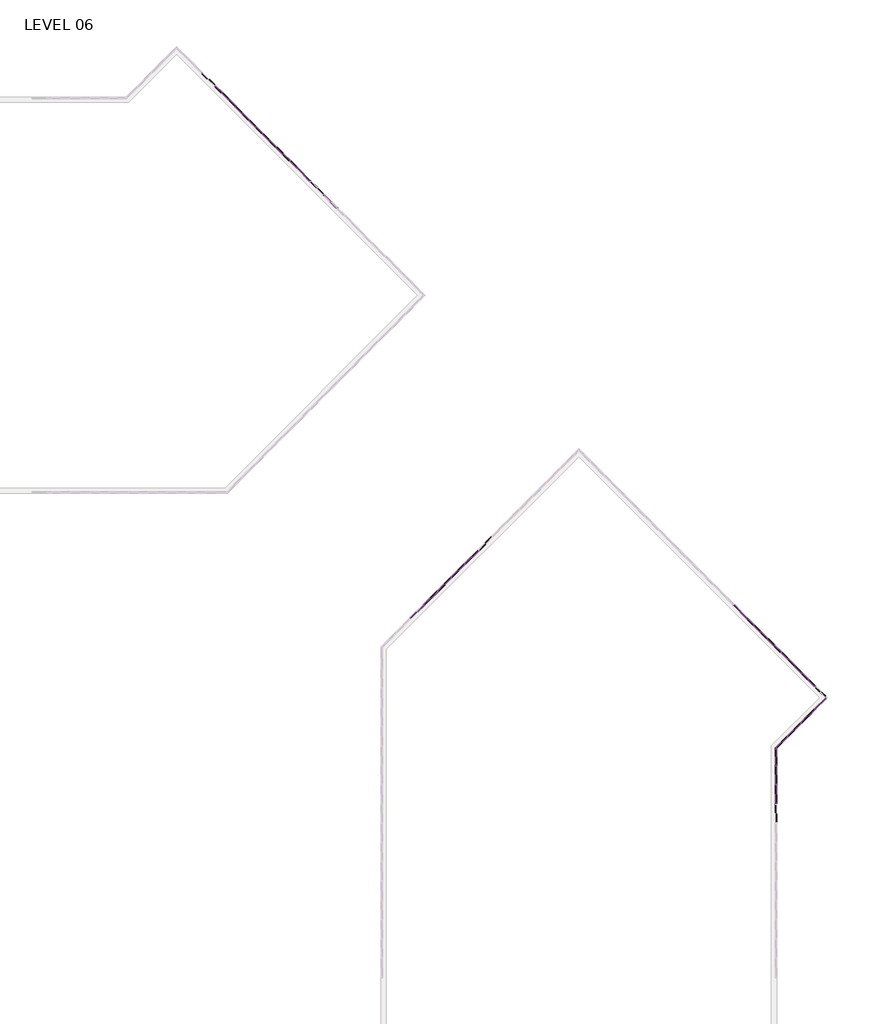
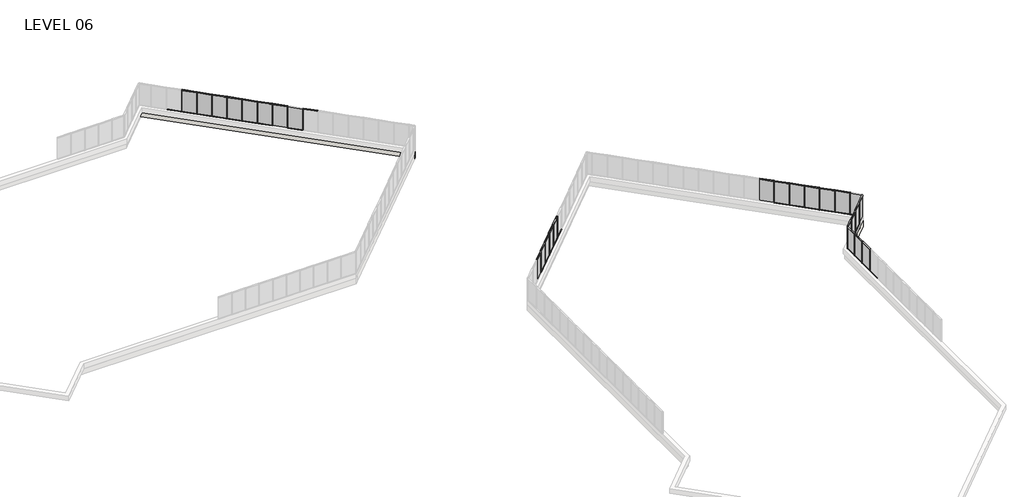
# One storey, part 16 of 17: 80 members, 27 plates, 2 walls.
"""IFC4 building model written with IfcOpenShell, lengths in millimetres."""

from ifc_helpers import new_model, si_unit, origin, place, context, project, spatial, faceted_brep, transform, mapped, element, save
from components import member_5247f267, member_e44af9ab, member_c23f844a, member_ed9c17d6, member_800970d4, member_45eb7f2e, member_53409b32, member_43bac76b, member_0b71a88d, plate_67294edd, plate_50b9cd61, plate_048e4634, plate_dca6a18a, plate_aaac5d3d, plate_9c66726c, plate_e0fd5134, plate_15429445, plate_0d1907f3, plate_903242d9

model = new_model("IFC4")

# Units and contexts
model_context = context("Model", 3, world=origin())
ifc_project = project(units=[si_unit("LENGTHUNIT", "METRE", prefix="MILLI")], contexts=[model_context])

# Site, building, storey
site = spatial("IfcSite", under=ifc_project)
building = spatial("IfcBuilding", under=site)
storey = spatial("IfcBuildingStorey", under=building, Name="LEVEL 06", Elevation=19596.1)

# Members
placement = place(None, origin())
member_shape = member_5247f267(model_context)
element("IfcMember", 1, ObjectType="Rectangular Mullion : 2\" x 4.5\" rectangular", at=placement, inside=storey, context=model_context, shape_type="MappedRepresentation", body=[
    mapped(member_shape, transform((56684.0325556, 112485.575885, 19596.1), x_axis=(0.0, 0.0, -1.0), y_axis=(0.7071067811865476, 0.7071067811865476, 0.0), z_axis=(0.7071067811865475, -0.7071067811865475, 0.0))),
])
element("IfcMember", 2, ObjectType="Rectangular Mullion : 2\" x 4.5\" rectangular", at=placement, inside=storey, context=model_context, shape_type="MappedRepresentation", body=[
    mapped(member_shape, transform((50242.2689164, 118927.3395242, 19596.1), x_axis=(0.0, 0.0, -1.0), y_axis=(0.7071067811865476, 0.7071067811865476, 0.0), z_axis=(0.7071067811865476, -0.7071067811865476, 0.0))),
])
element("IfcMember", 3, ObjectType="Rectangular Mullion : 2\" x 4.5\" rectangular", at=placement, inside=storey, context=model_context, shape_type="MappedRepresentation", body=[
    mapped(member_shape, transform((49164.6381819, 120004.9702587, 19596.1), x_axis=(0.0, 0.0, -1.0), y_axis=(0.7071067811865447, 0.7071067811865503, 0.0), z_axis=(0.7071067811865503, -0.7071067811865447, 0.0))),
])
element("IfcMember", 4, ObjectType="Rectangular Mullion : 2\" x 4.5\" rectangular", at=placement, inside=storey, context=model_context, shape_type="MappedRepresentation", body=[
    mapped(member_shape, transform((48087.0074473, 121082.6009932, 19596.1), x_axis=(0.0, 0.0, -1.0), y_axis=(0.7071067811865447, 0.7071067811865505, 0.0), z_axis=(0.7071067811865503, -0.7071067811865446, 0.0))),
])
element("IfcMember", 5, ObjectType="Rectangular Mullion : 2\" x 4.5\" rectangular", at=placement, inside=storey, context=model_context, shape_type="MappedRepresentation", body=[
    mapped(member_shape, transform((56719.9535801, 112449.6548605, 22186.9), x_axis=(0.0, 0.0, 1.0), y_axis=(0.7071067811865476, 0.7071067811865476, 0.0), z_axis=(-0.7071067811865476, 0.7071067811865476, 0.0))),
])
element("IfcMember", 6, ObjectType="Rectangular Mullion : 2\" x 4.5\" rectangular", at=placement, inside=storey, context=model_context, shape_type="MappedRepresentation", body=[
    mapped(member_shape, transform((49200.5592064, 119969.0492342, 22186.9), x_axis=(0.0, 0.0, 1.0), y_axis=(0.7071067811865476, 0.7071067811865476, 0.0), z_axis=(-0.7071067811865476, 0.7071067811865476, 0.0))),
])
element("IfcMember", 7, ObjectType="Rectangular Mullion : 2\" x 4.5\" rectangular", at=placement, inside=storey, context=model_context, shape_type="MappedRepresentation", body=[
    mapped(member_shape, transform((48122.9284718, 121046.6799687, 22186.9), x_axis=(0.0, 0.0, 1.0), y_axis=(0.7071067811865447, 0.7071067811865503, 0.0), z_axis=(-0.7071067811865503, 0.7071067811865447, 0.0))),
])
member_2_shape = member_e44af9ab(model_context)
element("IfcMember", 8, ObjectType="Rectangular Mullion : 2\" x 4.5\" rectangular", at=placement, inside=storey, context=model_context, shape_type="MappedRepresentation", body=[
    mapped(member_2_shape, transform((56701.9930678, 112467.6153727, 19596.1), x_axis=(-0.7071067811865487, 0.7071067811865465, 0.0), y_axis=(0.7071067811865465, 0.7071067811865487, 0.0), z_axis=(0.0, 0.0, -1.0))),
])
element("IfcMember", 9, ObjectType="Rectangular Mullion : 2\" x 4.5\" rectangular", at=placement, inside=storey, context=model_context, shape_type="MappedRepresentation", body=[
    mapped(member_2_shape, transform((55624.3980678, 113545.2103727, 19596.1), x_axis=(-0.7071067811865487, 0.7071067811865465, 0.0), y_axis=(0.7071067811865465, 0.7071067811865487, 0.0), z_axis=(0.0, 0.0, -1.0))),
])
element("IfcMember", 10, ObjectType="Rectangular Mullion : 2\" x 4.5\" rectangular", at=placement, inside=storey, context=model_context, shape_type="MappedRepresentation", body=[
    mapped(member_2_shape, transform((53475.159658, 115694.4487825, 19596.1), x_axis=(-0.7071067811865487, 0.7071067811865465, 0.0), y_axis=(0.7071067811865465, 0.7071067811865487, 0.0), z_axis=(0.0, 0.0, -1.0))),
])
element("IfcMember", 11, ObjectType="Rectangular Mullion : 2\" x 4.5\" rectangular", at=placement, inside=storey, context=model_context, shape_type="MappedRepresentation", body=[
    mapped(member_2_shape, transform((52403.5162482, 116766.0921923, 19596.1), x_axis=(-0.7071067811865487, 0.7071067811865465, 0.0), y_axis=(0.7071067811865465, 0.7071067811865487, 0.0), z_axis=(0.0, 0.0, -1.0))),
])
element("IfcMember", 12, ObjectType="Rectangular Mullion : 2\" x 4.5\" rectangular", at=placement, inside=storey, context=model_context, shape_type="MappedRepresentation", body=[
    mapped(member_2_shape, transform((51331.8728384, 117837.7356021, 19596.1), x_axis=(-0.7071067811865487, 0.7071067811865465, 0.0), y_axis=(0.7071067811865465, 0.7071067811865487, 0.0), z_axis=(0.0, 0.0, -1.0))),
])
element("IfcMember", 13, ObjectType="Rectangular Mullion : 2\" x 4.5\" rectangular", at=placement, inside=storey, context=model_context, shape_type="MappedRepresentation", body=[
    mapped(member_2_shape, transform((50260.2294286, 118909.3790119, 19596.1), x_axis=(-0.7071067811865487, 0.7071067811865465, 0.0), y_axis=(0.7071067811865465, 0.7071067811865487, 0.0), z_axis=(0.0, 0.0, -1.0))),
])
element("IfcMember", 14, ObjectType="Rectangular Mullion : 2\" x 4.5\" rectangular", at=placement, inside=storey, context=model_context, shape_type="MappedRepresentation", body=[
    mapped(member_2_shape, transform((54549.7788629, 114619.8295776, 19596.1), x_axis=(-0.7071067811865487, 0.7071067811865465, 0.0), y_axis=(0.7071067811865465, 0.7071067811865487, 0.0), z_axis=(0.0, 0.0, -1.0))),
])
element("IfcMember", 15, ObjectType="Rectangular Mullion : 2\" x 4.5\" rectangular", at=placement, inside=storey, context=model_context, shape_type="MappedRepresentation", body=[
    mapped(member_2_shape, transform((49182.5986941, 119987.0097464, 19596.1), x_axis=(-0.7071067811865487, 0.7071067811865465, 0.0), y_axis=(0.7071067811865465, 0.7071067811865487, 0.0), z_axis=(0.0, 0.0, -1.0))),
])
element("IfcMember", 16, ObjectType="Rectangular Mullion : 2\" x 4.5\" rectangular", at=placement, inside=storey, context=model_context, shape_type="MappedRepresentation", body=[
    mapped(member_2_shape, transform((48104.9679596, 121064.640481, 19596.1), x_axis=(-0.7071067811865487, 0.7071067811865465, 0.0), y_axis=(0.7071067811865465, 0.7071067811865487, 0.0), z_axis=(0.0, 0.0, -1.0))),
])
member_3_shape = member_c23f844a(model_context)
element("IfcMember", 17, ObjectType="Rectangular Mullion : 2\" x 4.5\" rectangular", at=placement, inside=storey, context=model_context, shape_type="MappedRepresentation", body=[
    mapped(member_3_shape, transform((52421.4767605, 116748.1316801, 22186.9), x_axis=(0.0, 0.0, 1.0), y_axis=(0.7071067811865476, 0.7071067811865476, 0.0), z_axis=(-0.7071067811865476, 0.7071067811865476, 0.0))),
])
element("IfcMember", 18, ObjectType="Rectangular Mullion : 2\" x 4.5\" rectangular", at=placement, inside=storey, context=model_context, shape_type="MappedRepresentation", body=[
    mapped(member_3_shape, transform((51349.8333507, 117819.7750899, 22186.9), x_axis=(0.0, 0.0, 1.0), y_axis=(0.7071067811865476, 0.7071067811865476, 0.0), z_axis=(-0.7071067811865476, 0.7071067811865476, 0.0))),
])
element("IfcMember", 19, ObjectType="Rectangular Mullion : 2\" x 4.5\" rectangular", at=placement, inside=storey, context=model_context, shape_type="MappedRepresentation", body=[
    mapped(member_3_shape, transform((50278.1899409, 118891.4184997, 22186.9), x_axis=(0.0, 0.0, 1.0), y_axis=(0.7071067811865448, 0.7071067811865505, 0.0), z_axis=(-0.7071067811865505, 0.7071067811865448, 0.0))),
])
element("IfcMember", 20, ObjectType="Rectangular Mullion : 2\" x 4.5\" rectangular", at=placement, inside=storey, context=model_context, shape_type="MappedRepresentation", body=[
    mapped(member_3_shape, transform((53457.1991458, 115712.4092948, 19596.1), x_axis=(0.0, 0.0, -1.0), y_axis=(0.7071067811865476, 0.7071067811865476, 0.0), z_axis=(0.7071067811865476, -0.7071067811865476, 0.0))),
])
element("IfcMember", 21, ObjectType="Rectangular Mullion : 2\" x 4.5\" rectangular", at=placement, inside=storey, context=model_context, shape_type="MappedRepresentation", body=[
    mapped(member_3_shape, transform((52385.555736, 116784.0527046, 19596.1), x_axis=(0.0, 0.0, -1.0), y_axis=(0.7071067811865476, 0.7071067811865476, 0.0), z_axis=(0.7071067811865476, -0.7071067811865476, 0.0))),
])
element("IfcMember", 22, ObjectType="Rectangular Mullion : 2\" x 4.5\" rectangular", at=placement, inside=storey, context=model_context, shape_type="MappedRepresentation", body=[
    mapped(member_3_shape, transform((51313.9123262, 117855.6961144, 19596.1), x_axis=(0.0, 0.0, -1.0), y_axis=(0.7071067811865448, 0.7071067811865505, 0.0), z_axis=(0.7071067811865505, -0.7071067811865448, 0.0))),
])
member_4_shape = member_ed9c17d6(model_context)
element("IfcMember", 23, ObjectType="Rectangular Mullion : 2\" x 4.5\" rectangular", at=placement, inside=storey, context=model_context, shape_type="MappedRepresentation", body=[
    mapped(member_4_shape, transform((53493.1201703, 115676.4882703, 22186.9), x_axis=(0.0, 0.0, 1.0), y_axis=(0.7071067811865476, 0.7071067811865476, 0.0), z_axis=(-0.7071067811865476, 0.7071067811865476, 0.0))),
])
element("IfcMember", 24, ObjectType="Rectangular Mullion : 2\" x 4.5\" rectangular", at=placement, inside=storey, context=model_context, shape_type="MappedRepresentation", body=[
    mapped(member_4_shape, transform((54567.7393752, 114601.8690654, 22186.9), x_axis=(0.0, 0.0, 1.0), y_axis=(0.7071067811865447, 0.7071067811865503, 0.0), z_axis=(-0.7071067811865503, 0.7071067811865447, 0.0))),
])
element("IfcMember", 25, ObjectType="Rectangular Mullion : 2\" x 4.5\" rectangular", at=placement, inside=storey, context=model_context, shape_type="MappedRepresentation", body=[
    mapped(member_4_shape, transform((54531.8183507, 114637.7900899, 19596.1), x_axis=(0.0, 0.0, -1.0), y_axis=(0.7071067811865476, 0.7071067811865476, 0.0), z_axis=(0.7071067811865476, -0.7071067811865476, 0.0))),
])
element("IfcMember", 26, ObjectType="Rectangular Mullion : 2\" x 4.5\" rectangular", at=placement, inside=storey, context=model_context, shape_type="MappedRepresentation", body=[
    mapped(member_shape, transform((92435.9347164, 65925.3675885, 22186.9), x_axis=(0.0, 0.0, 1.0), y_axis=(-1.0, 0.0, 0.0), z_axis=(0.0, -1.0, 0.0))),
])
element("IfcMember", 27, ObjectType="Rectangular Mullion : 2\" x 4.5\" rectangular", at=placement, inside=storey, context=model_context, shape_type="MappedRepresentation", body=[
    mapped(member_shape, transform((92435.9347164, 64401.3675885, 22186.9), x_axis=(0.0, 0.0, 1.0), y_axis=(-1.0, 0.0, 0.0), z_axis=(0.0, -1.0, 0.0))),
])
element("IfcMember", 28, ObjectType="Rectangular Mullion : 2\" x 4.5\" rectangular", at=placement, inside=storey, context=model_context, shape_type="MappedRepresentation", body=[
    mapped(member_shape, transform((64595.6050033, 80065.494011, 22186.9), x_axis=(0.0, 0.0, 1.0), y_axis=(0.7071067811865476, -0.7071067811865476, 0.0), z_axis=(0.7071067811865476, 0.7071067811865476, 0.0))),
])
element("IfcMember", 29, ObjectType="Rectangular Mullion : 2\" x 4.5\" rectangular", at=placement, inside=storey, context=model_context, shape_type="MappedRepresentation", body=[
    mapped(member_shape, transform((65673.2357378, 81143.1247456, 22186.9), x_axis=(0.0, 0.0, 1.0), y_axis=(0.7071067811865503, -0.7071067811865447, 0.0), z_axis=(0.7071067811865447, 0.7071067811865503, 0.0))),
])
element("IfcMember", 30, ObjectType="Rectangular Mullion : 2\" x 4.5\" rectangular", at=placement, inside=storey, context=model_context, shape_type="MappedRepresentation", body=[
    mapped(member_shape, transform((67828.4824051, 83298.3714129, 22186.9), x_axis=(0.0, 0.0, 1.0), y_axis=(0.7071067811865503, -0.7071067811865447, 0.0), z_axis=(0.7071067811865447, 0.7071067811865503, 0.0))),
])
element("IfcMember", 31, ObjectType="Rectangular Mullion : 2\" x 4.5\" rectangular", at=placement, inside=storey, context=model_context, shape_type="MappedRepresentation", body=[
    mapped(member_shape, transform((68906.0983379, 84375.9873457, 22186.9), x_axis=(0.0, 0.0, 1.0), y_axis=(0.7071067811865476, -0.7071067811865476, 0.0), z_axis=(0.7071067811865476, 0.7071067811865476, 0.0))),
])
element("IfcMember", 32, ObjectType="Rectangular Mullion : 2\" x 4.5\" rectangular", at=placement, inside=storey, context=model_context, shape_type="MappedRepresentation", body=[
    mapped(member_shape, transform((66750.8590715, 82220.7480792, 22186.9), x_axis=(0.0, 0.0, 1.0), y_axis=(0.7071067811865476, -0.7071067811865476, 0.0), z_axis=(0.7071067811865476, 0.7071067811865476, 0.0))),
])
element("IfcMember", 33, ObjectType="Rectangular Mullion : 2\" x 4.5\" rectangular", at=placement, inside=storey, context=model_context, shape_type="MappedRepresentation", body=[
    mapped(member_shape, transform((92277.0316457, 76892.5767949, 22186.9), x_axis=(0.0, 0.0, 1.0), y_axis=(-0.7071067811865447, -0.7071067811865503, 0.0), z_axis=(0.7071067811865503, -0.7071067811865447, 0.0))),
])
element("IfcMember", 34, ObjectType="Rectangular Mullion : 2\" x 4.5\" rectangular", at=placement, inside=storey, context=model_context, shape_type="MappedRepresentation", body=[
    mapped(member_shape, transform((93354.6623802, 75814.9460603, 22186.9), x_axis=(0.0, 0.0, 1.0), y_axis=(-0.7071067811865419, -0.7071067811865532, 0.0), z_axis=(0.7071067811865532, -0.7071067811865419, 0.0))),
])
element("IfcMember", 35, ObjectType="Rectangular Mullion : 2\" x 4.5\" rectangular", at=placement, inside=storey, context=model_context, shape_type="MappedRepresentation", body=[
    mapped(member_shape, transform((94432.2931147, 74737.3153258, 22186.9), x_axis=(0.0, 0.0, 1.0), y_axis=(-0.7071067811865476, -0.7071067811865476, 0.0), z_axis=(0.7071067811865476, -0.7071067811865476, 0.0))),
])
element("IfcMember", 36, ObjectType="Rectangular Mullion : 2\" x 4.5\" rectangular", at=placement, inside=storey, context=model_context, shape_type="MappedRepresentation", body=[
    mapped(member_shape, transform((95509.9238493, 73659.6845913, 22186.9), x_axis=(0.0, 0.0, 1.0), y_axis=(-0.7071067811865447, -0.7071067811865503, 0.0), z_axis=(0.7071067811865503, -0.7071067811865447, 0.0))),
])
element("IfcMember", 37, ObjectType="Rectangular Mullion : 2\" x 4.5\" rectangular", at=placement, inside=storey, context=model_context, shape_type="MappedRepresentation", body=[
    mapped(member_shape, transform((94441.1847655, 70787.511502, 22186.9), x_axis=(0.0, 0.0, 1.0), y_axis=(-0.7071067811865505, 0.7071067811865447, 0.0), z_axis=(-0.7071067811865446, -0.7071067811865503, 0.0))),
])
element("IfcMember", 38, ObjectType="Rectangular Mullion : 2\" x 4.5\" rectangular", at=placement, inside=storey, context=model_context, shape_type="MappedRepresentation", body=[
    mapped(member_shape, transform((93363.554031, 69709.8807675, 22186.9), x_axis=(0.0, 0.0, 1.0), y_axis=(-0.7071067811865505, 0.7071067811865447, 0.0), z_axis=(-0.7071067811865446, -0.7071067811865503, 0.0))),
])
element("IfcMember", 39, ObjectType="Rectangular Mullion : 2\" x 4.5\" rectangular", at=placement, inside=storey, context=model_context, shape_type="MappedRepresentation", body=[
    mapped(member_shape, transform((92435.9347164, 67398.5675885, 19596.1), x_axis=(0.0, 0.0, -1.0), y_axis=(-1.0, 0.0, 0.0), z_axis=(0.0, 1.0, 0.0))),
])
element("IfcMember", 40, ObjectType="Rectangular Mullion : 2\" x 4.5\" rectangular", at=placement, inside=storey, context=model_context, shape_type="MappedRepresentation", body=[
    mapped(member_shape, transform((92435.9347164, 65874.5675885, 19596.1), x_axis=(0.0, 0.0, -1.0), y_axis=(-1.0, 0.0, 0.0), z_axis=(0.0, 1.0, 0.0))),
])
element("IfcMember", 41, ObjectType="Rectangular Mullion : 2\" x 4.5\" rectangular", at=placement, inside=storey, context=model_context, shape_type="MappedRepresentation", body=[
    mapped(member_shape, transform((92435.9347164, 64350.5675885, 19596.1), x_axis=(0.0, 0.0, -1.0), y_axis=(-1.0, 0.0, 0.0), z_axis=(0.0, 1.0, 0.0))),
])
element("IfcMember", 42, ObjectType="Rectangular Mullion : 2\" x 4.5\" rectangular", at=placement, inside=storey, context=model_context, shape_type="MappedRepresentation", body=[
    mapped(member_shape, transform((64631.5260278, 80101.4150355, 19596.1), x_axis=(0.0, 0.0, -1.0), y_axis=(0.7071067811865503, -0.7071067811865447, 0.0), z_axis=(-0.7071067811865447, -0.7071067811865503, 0.0))),
])
element("IfcMember", 43, ObjectType="Rectangular Mullion : 2\" x 4.5\" rectangular", at=placement, inside=storey, context=model_context, shape_type="MappedRepresentation", body=[
    mapped(member_shape, transform((65709.1567623, 81179.04577, 19596.1), x_axis=(0.0, 0.0, -1.0), y_axis=(0.7071067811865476, -0.7071067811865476, 0.0), z_axis=(-0.7071067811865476, -0.7071067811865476, 0.0))),
])
element("IfcMember", 44, ObjectType="Rectangular Mullion : 2\" x 4.5\" rectangular", at=placement, inside=storey, context=model_context, shape_type="MappedRepresentation", body=[
    mapped(member_shape, transform((67864.4034296, 83334.2924374, 19596.1), x_axis=(0.0, 0.0, -1.0), y_axis=(0.7071067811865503, -0.7071067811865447, 0.0), z_axis=(-0.7071067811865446, -0.7071067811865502, 0.0))),
])
element("IfcMember", 45, ObjectType="Rectangular Mullion : 2\" x 4.5\" rectangular", at=placement, inside=storey, context=model_context, shape_type="MappedRepresentation", body=[
    mapped(member_shape, transform((68942.0193624, 84411.9083702, 19596.1), x_axis=(0.0, 0.0, -1.0), y_axis=(0.7071067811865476, -0.7071067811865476, 0.0), z_axis=(-0.7071067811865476, -0.7071067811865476, 0.0))),
])
element("IfcMember", 46, ObjectType="Rectangular Mullion : 2\" x 4.5\" rectangular", at=placement, inside=storey, context=model_context, shape_type="MappedRepresentation", body=[
    mapped(member_shape, transform((66786.780096, 82256.6691037, 19596.1), x_axis=(0.0, 0.0, -1.0), y_axis=(0.7071067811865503, -0.7071067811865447, 0.0), z_axis=(-0.7071067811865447, -0.7071067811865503, 0.0))),
])
element("IfcMember", 47, ObjectType="Rectangular Mullion : 2\" x 4.5\" rectangular", at=placement, inside=storey, context=model_context, shape_type="MappedRepresentation", body=[
    mapped(member_shape, transform((91235.3219356, 77934.2865049, 19596.1), x_axis=(0.0, 0.0, -1.0), y_axis=(-0.7071067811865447, -0.7071067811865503, 0.0), z_axis=(-0.7071067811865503, 0.7071067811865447, 0.0))),
])
element("IfcMember", 48, ObjectType="Rectangular Mullion : 2\" x 4.5\" rectangular", at=placement, inside=storey, context=model_context, shape_type="MappedRepresentation", body=[
    mapped(member_shape, transform((92312.9526702, 76856.6557704, 19596.1), x_axis=(0.0, 0.0, -1.0), y_axis=(-0.7071067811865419, -0.7071067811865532, 0.0), z_axis=(-0.7071067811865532, 0.7071067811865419, 0.0))),
])
element("IfcMember", 49, ObjectType="Rectangular Mullion : 2\" x 4.5\" rectangular", at=placement, inside=storey, context=model_context, shape_type="MappedRepresentation", body=[
    mapped(member_shape, transform((93390.5834047, 75779.0250359, 19596.1), x_axis=(0.0, 0.0, -1.0), y_axis=(-0.7071067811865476, -0.7071067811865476, 0.0), z_axis=(-0.7071067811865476, 0.7071067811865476, 0.0))),
])
element("IfcMember", 50, ObjectType="Rectangular Mullion : 2\" x 4.5\" rectangular", at=placement, inside=storey, context=model_context, shape_type="MappedRepresentation", body=[
    mapped(member_shape, transform((94468.2141392, 74701.3943013, 19596.1), x_axis=(0.0, 0.0, -1.0), y_axis=(-0.7071067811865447, -0.7071067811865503, 0.0), z_axis=(-0.7071067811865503, 0.7071067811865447, 0.0))),
])
element("IfcMember", 51, ObjectType="Rectangular Mullion : 2\" x 4.5\" rectangular", at=placement, inside=storey, context=model_context, shape_type="MappedRepresentation", body=[
    mapped(member_shape, transform((94405.263741, 70751.5904775, 19596.1), x_axis=(0.0, 0.0, -1.0), y_axis=(-0.7071067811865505, 0.7071067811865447, 0.0), z_axis=(0.7071067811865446, 0.7071067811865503, 0.0))),
])
element("IfcMember", 52, ObjectType="Rectangular Mullion : 2\" x 4.5\" rectangular", at=placement, inside=storey, context=model_context, shape_type="MappedRepresentation", body=[
    mapped(member_shape, transform((95482.8944756, 71829.221212, 19596.1), x_axis=(0.0, 0.0, -1.0), y_axis=(-0.7071067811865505, 0.7071067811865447, 0.0), z_axis=(0.7071067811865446, 0.7071067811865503, 0.0))),
])
element("IfcMember", 53, ObjectType="Rectangular Mullion : 2\" x 4.5\" rectangular", at=placement, inside=storey, context=model_context, shape_type="MappedRepresentation", body=[
    mapped(member_2_shape, transform((92435.9347164, 67423.9675885, 19596.1), x_axis=(0.0, -1.0, 0.0), y_axis=(-1.0, 0.0, 0.0), z_axis=(0.0, 0.0, -1.0))),
])
element("IfcMember", 54, ObjectType="Rectangular Mullion : 2\" x 4.5\" rectangular", at=placement, inside=storey, context=model_context, shape_type="MappedRepresentation", body=[
    mapped(member_2_shape, transform((92435.9347164, 65899.9675885, 19596.1), x_axis=(0.0, -1.0, 0.0), y_axis=(-1.0, 0.0, 0.0), z_axis=(0.0, 0.0, -1.0))),
])
element("IfcMember", 55, ObjectType="Rectangular Mullion : 2\" x 4.5\" rectangular", at=placement, inside=storey, context=model_context, shape_type="MappedRepresentation", body=[
    mapped(member_2_shape, transform((92435.9347164, 64375.9675885, 19596.1), x_axis=(0.0, -1.0, 0.0), y_axis=(-1.0, 0.0, 0.0), z_axis=(0.0, 0.0, -1.0))),
])
element("IfcMember", 56, ObjectType="Rectangular Mullion : 2\" x 4.5\" rectangular", at=placement, inside=storey, context=model_context, shape_type="MappedRepresentation", body=[
    mapped(member_2_shape, transform((64613.5655155, 80083.4545233, 19596.1), x_axis=(0.7071067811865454, 0.7071067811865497, 0.0), y_axis=(0.7071067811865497, -0.7071067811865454, 0.0), z_axis=(0.0, 0.0, -1.0))),
])
element("IfcMember", 57, ObjectType="Rectangular Mullion : 2\" x 4.5\" rectangular", at=placement, inside=storey, context=model_context, shape_type="MappedRepresentation", body=[
    mapped(member_2_shape, transform((65691.1962501, 81161.0852578, 19596.1), x_axis=(0.7071067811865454, 0.7071067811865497, 0.0), y_axis=(0.7071067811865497, -0.7071067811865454, 0.0), z_axis=(0.0, 0.0, -1.0))),
])
element("IfcMember", 58, ObjectType="Rectangular Mullion : 2\" x 4.5\" rectangular", at=placement, inside=storey, context=model_context, shape_type="MappedRepresentation", body=[
    mapped(member_2_shape, transform((67846.4429174, 83316.3319251, 19596.1), x_axis=(0.7071067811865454, 0.7071067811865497, 0.0), y_axis=(0.7071067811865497, -0.7071067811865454, 0.0), z_axis=(0.0, 0.0, -1.0))),
])
element("IfcMember", 59, ObjectType="Rectangular Mullion : 2\" x 4.5\" rectangular", at=placement, inside=storey, context=model_context, shape_type="MappedRepresentation", body=[
    mapped(member_2_shape, transform((68924.0588502, 84393.9478579, 19596.1), x_axis=(0.7071067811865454, 0.7071067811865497, 0.0), y_axis=(0.7071067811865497, -0.7071067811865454, 0.0), z_axis=(0.0, 0.0, -1.0))),
])
element("IfcMember", 60, ObjectType="Rectangular Mullion : 2\" x 4.5\" rectangular", at=placement, inside=storey, context=model_context, shape_type="MappedRepresentation", body=[
    mapped(member_2_shape, transform((66768.8195837, 82238.7085915, 19596.1), x_axis=(0.7071067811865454, 0.7071067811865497, 0.0), y_axis=(0.7071067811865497, -0.7071067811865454, 0.0), z_axis=(0.0, 0.0, -1.0))),
])
element("IfcMember", 61, ObjectType="Rectangular Mullion : 2\" x 4.5\" rectangular", at=placement, inside=storey, context=model_context, shape_type="MappedRepresentation", body=[
    mapped(member_2_shape, transform((90145.7180136, 79023.890427, 19596.1), x_axis=(0.7071067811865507, -0.7071067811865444, 0.0), y_axis=(-0.7071067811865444, -0.7071067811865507, 0.0), z_axis=(0.0, 0.0, -1.0))),
])
element("IfcMember", 62, ObjectType="Rectangular Mullion : 2\" x 4.5\" rectangular", at=placement, inside=storey, context=model_context, shape_type="MappedRepresentation", body=[
    mapped(member_2_shape, transform((91217.3614234, 77952.2470172, 19596.1), x_axis=(0.7071067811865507, -0.7071067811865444, 0.0), y_axis=(-0.7071067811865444, -0.7071067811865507, 0.0), z_axis=(0.0, 0.0, -1.0))),
])
element("IfcMember", 63, ObjectType="Rectangular Mullion : 2\" x 4.5\" rectangular", at=placement, inside=storey, context=model_context, shape_type="MappedRepresentation", body=[
    mapped(member_2_shape, transform((92294.9921579, 76874.6162826, 19596.1), x_axis=(0.7071067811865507, -0.7071067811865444, 0.0), y_axis=(-0.7071067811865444, -0.7071067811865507, 0.0), z_axis=(0.0, 0.0, -1.0))),
])
element("IfcMember", 64, ObjectType="Rectangular Mullion : 2\" x 4.5\" rectangular", at=placement, inside=storey, context=model_context, shape_type="MappedRepresentation", body=[
    mapped(member_2_shape, transform((93372.6228924, 75796.9855481, 19596.1), x_axis=(0.7071067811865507, -0.7071067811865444, 0.0), y_axis=(-0.7071067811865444, -0.7071067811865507, 0.0), z_axis=(0.0, 0.0, -1.0))),
])
element("IfcMember", 65, ObjectType="Rectangular Mullion : 2\" x 4.5\" rectangular", at=placement, inside=storey, context=model_context, shape_type="MappedRepresentation", body=[
    mapped(member_2_shape, transform((94450.253627, 74719.3548136, 19596.1), x_axis=(0.7071067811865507, -0.7071067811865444, 0.0), y_axis=(-0.7071067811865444, -0.7071067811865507, 0.0), z_axis=(0.0, 0.0, -1.0))),
])
element("IfcMember", 66, ObjectType="Rectangular Mullion : 2\" x 4.5\" rectangular", at=placement, inside=storey, context=model_context, shape_type="MappedRepresentation", body=[
    mapped(member_2_shape, transform((95527.8843615, 73641.724079, 19596.1), x_axis=(0.7071067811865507, -0.7071067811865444, 0.0), y_axis=(-0.7071067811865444, -0.7071067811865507, 0.0), z_axis=(0.0, 0.0, -1.0))),
])
element("IfcMember", 67, ObjectType="Rectangular Mullion : 2\" x 4.5\" rectangular", at=placement, inside=storey, context=model_context, shape_type="MappedRepresentation", body=[
    mapped(member_2_shape, transform((94423.2242533, 70769.5509898, 19596.1), x_axis=(-0.7071067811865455, -0.7071067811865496, 0.0), y_axis=(-0.7071067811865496, 0.7071067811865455, 0.0), z_axis=(0.0, 0.0, -1.0))),
])
element("IfcMember", 68, ObjectType="Rectangular Mullion : 2\" x 4.5\" rectangular", at=placement, inside=storey, context=model_context, shape_type="MappedRepresentation", body=[
    mapped(member_2_shape, transform((93345.5935187, 69691.9202552, 19596.1), x_axis=(-0.7071067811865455, -0.7071067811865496, 0.0), y_axis=(-0.7071067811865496, 0.7071067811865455, 0.0), z_axis=(0.0, 0.0, -1.0))),
])
element("IfcMember", 69, ObjectType="Rectangular Mullion : 2\" x 4.5\" rectangular", at=placement, inside=storey, context=model_context, shape_type="MappedRepresentation", body=[
    mapped(member_2_shape, transform((95500.8549878, 71847.1817243, 19596.1), x_axis=(-0.7071067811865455, -0.7071067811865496, 0.0), y_axis=(-0.7071067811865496, 0.7071067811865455, 0.0), z_axis=(0.0, 0.0, -1.0))),
])
member_5_shape = member_800970d4(model_context)
element("IfcMember", 70, ObjectType="Rectangular Mullion : 2\" x 4.5\" rectangular", at=placement, inside=storey, context=model_context, shape_type="MappedRepresentation", body=[
    mapped(member_5_shape, transform((92435.9347164, 68782.2614529, 19596.1), x_axis=(-0.7071067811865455, -0.7071067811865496, 0.0), y_axis=(-0.7071067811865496, 0.7071067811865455, 0.0), z_axis=(0.0, 0.0, -1.0))),
])
element("IfcMember", 71, ObjectType="Rectangular Mullion : 2\" x 4.5\" rectangular", at=placement, inside=storey, context=model_context, shape_type="MappedRepresentation", body=[
    mapped(member_5_shape, transform((92435.9347164, 68782.2614529, 22186.9), x_axis=(0.0, 1.0, 0.0), y_axis=(-1.0, 0.0, 0.0), z_axis=(0.0, 0.0, 1.0))),
])
element("IfcMember", 72, ObjectType="Rectangular Mullion : 2\" x 4.5\" rectangular", at=placement, inside=storey, context=model_context, shape_type="MappedRepresentation", body=[
    mapped(member_3_shape, transform((90127.7575014, 79041.8509392, 22186.9), x_axis=(0.0, 0.0, 1.0), y_axis=(-0.7071067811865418, -0.7071067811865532, 0.0), z_axis=(0.7071067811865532, -0.7071067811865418, 0.0))),
])
element("IfcMember", 73, ObjectType="Rectangular Mullion : 2\" x 4.5\" rectangular", at=placement, inside=storey, context=model_context, shape_type="MappedRepresentation", body=[
    mapped(member_3_shape, transform((91199.4009111, 77970.2075294, 22186.9), x_axis=(0.0, 0.0, 1.0), y_axis=(-0.7071067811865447, -0.7071067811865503, 0.0), z_axis=(0.7071067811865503, -0.7071067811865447, 0.0))),
])
element("IfcMember", 74, ObjectType="Rectangular Mullion : 2\" x 4.5\" rectangular", at=placement, inside=storey, context=model_context, shape_type="MappedRepresentation", body=[
    mapped(member_3_shape, transform((90163.6785258, 79005.9299147, 19596.1), x_axis=(0.0, 0.0, -1.0), y_axis=(-0.7071067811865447, -0.7071067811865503, 0.0), z_axis=(-0.7071067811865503, 0.7071067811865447, 0.0))),
])
member_6_shape = member_45eb7f2e(model_context)
element("IfcMember", 75, ObjectType="Rectangular Mullion : 2\" x 4.5\" rectangular", at=placement, inside=storey, context=model_context, shape_type="MappedRepresentation", body=[
    mapped(member_6_shape, transform((92435.9347164, 67449.3675885, 22186.9), x_axis=(0.0, 0.0, 1.0), y_axis=(-1.0, 0.0, 0.0), z_axis=(0.0, -1.0, 0.0))),
])
element("IfcMember", 76, ObjectType="Rectangular Mullion : 2\" x 4.5\" rectangular", at=placement, inside=storey, context=model_context, shape_type="MappedRepresentation", body=[
    mapped(member_6_shape, transform((92435.9347164, 68731.4614529, 19596.1), x_axis=(0.0, 0.0, -1.0), y_axis=(-1.0, 0.0, 0.0), z_axis=(0.0, 1.0, 0.0))),
])
member_7_shape = member_53409b32(model_context)
element("IfcMember", 77, ObjectType="Rectangular Mullion : 2\" x 4.5\" rectangular", at=placement, inside=storey, context=model_context, shape_type="MappedRepresentation", body=[
    mapped(member_7_shape, transform((95545.8448737, 73623.7635668, 19596.1), x_axis=(0.0, 0.0, -1.0), y_axis=(-0.7071067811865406, -0.7071067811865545, 0.0), z_axis=(-0.7071067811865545, 0.7071067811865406, 0.0))),
])
member_8_shape = member_43bac76b(model_context)
element("IfcMember", 78, ObjectType="Rectangular Mullion : 2\" x 4.5\" rectangular", at=placement, inside=storey, context=model_context, shape_type="MappedRepresentation", body=[
    mapped(member_8_shape, transform((92471.8557409, 68818.1824774, 22186.9), x_axis=(0.0, 0.0, 1.0), y_axis=(-0.7071067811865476, 0.7071067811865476, 0.0), z_axis=(-0.7071067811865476, -0.7071067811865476, 0.0))),
])
element("IfcMember", 79, ObjectType="Rectangular Mullion : 2\" x 4.5\" rectangular", at=placement, inside=storey, context=model_context, shape_type="MappedRepresentation", body=[
    mapped(member_8_shape, transform((93327.6330065, 69673.959743, 19596.1), x_axis=(0.0, 0.0, -1.0), y_axis=(-0.7071067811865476, 0.7071067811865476, 0.0), z_axis=(0.7071067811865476, 0.7071067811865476, 0.0))),
])
member_9_shape = member_0b71a88d(model_context)
element("IfcMember", 80, ObjectType="Rectangular Mullion : 2\" x 4.5\" rectangular", at=placement, inside=storey, context=model_context, shape_type="MappedRepresentation", body=[
    mapped(member_9_shape, transform((95518.8155, 71865.1422365, 22186.9), x_axis=(0.0, 0.0, 1.0), y_axis=(-0.7071067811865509, 0.7071067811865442, 0.0), z_axis=(-0.7071067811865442, -0.7071067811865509, 0.0))),
])

# Plates
plate_shape = plate_67294edd(model_context)
element("IfcPlate", 81, ObjectType="System Panel : 1/4\" Glass", at=placement, inside=storey, context=model_context, shape_type="MappedRepresentation", body=[
    mapped(plate_shape, transform((49721.4140614, 119448.1943792, 19646.9), x_axis=(-0.7071067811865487, 0.7071067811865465, 0.0), y_axis=(-0.7071067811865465, -0.7071067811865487, 0.0), z_axis=(0.0, 0.0, 1.0))),
])
element("IfcPlate", 82, ObjectType="System Panel : 1/4\" Glass", at=placement, inside=storey, context=model_context, shape_type="MappedRepresentation", body=[
    mapped(plate_shape, transform((48643.7833268, 120525.8251137, 19646.9), x_axis=(-0.7071067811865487, 0.7071067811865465, 0.0), y_axis=(-0.7071067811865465, -0.7071067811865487, 0.0), z_axis=(0.0, 0.0, 1.0))),
])
plate_2_shape = plate_50b9cd61(model_context)
element("IfcPlate", 83, ObjectType="System Panel : 1/4\" Glass", at=placement, inside=storey, context=model_context, shape_type="MappedRepresentation", body=[
    mapped(plate_2_shape, transform((52939.3379531, 116230.2704874, 19646.9), x_axis=(-0.7071067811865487, 0.7071067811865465, 0.0), y_axis=(-0.7071067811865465, -0.7071067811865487, 0.0), z_axis=(0.0, 0.0, 1.0))),
])
element("IfcPlate", 84, ObjectType="System Panel : 1/4\" Glass", at=placement, inside=storey, context=model_context, shape_type="MappedRepresentation", body=[
    mapped(plate_2_shape, transform((51867.6945433, 117301.9138972, 19646.9), x_axis=(-0.7071067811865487, 0.7071067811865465, 0.0), y_axis=(-0.7071067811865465, -0.7071067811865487, 0.0), z_axis=(0.0, 0.0, 1.0))),
])
element("IfcPlate", 85, ObjectType="System Panel : 1/4\" Glass", at=placement, inside=storey, context=model_context, shape_type="MappedRepresentation", body=[
    mapped(plate_2_shape, transform((50796.0511335, 118373.557307, 19646.9), x_axis=(-0.7071067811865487, 0.7071067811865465, 0.0), y_axis=(-0.7071067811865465, -0.7071067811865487, 0.0), z_axis=(0.0, 0.0, 1.0))),
])
plate_3_shape = plate_048e4634(model_context)
element("IfcPlate", 86, ObjectType="System Panel : 1/4\" Glass", at=placement, inside=storey, context=model_context, shape_type="MappedRepresentation", body=[
    mapped(plate_3_shape, transform((56163.1955678, 113006.4128727, 19646.9), x_axis=(-0.7071067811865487, 0.7071067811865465, 0.0), y_axis=(-0.7071067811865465, -0.7071067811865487, 0.0), z_axis=(0.0, 0.0, 1.0))),
])
plate_4_shape = plate_dca6a18a(model_context)
element("IfcPlate", 87, ObjectType="System Panel : 1/4\" Glass", at=placement, inside=storey, context=model_context, shape_type="MappedRepresentation", body=[
    mapped(plate_4_shape, transform((55087.0884654, 114082.5199752, 19646.9), x_axis=(-0.7071067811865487, 0.7071067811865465, 0.0), y_axis=(-0.7071067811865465, -0.7071067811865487, 0.0), z_axis=(0.0, 0.0, 1.0))),
])
element("IfcPlate", 88, ObjectType="System Panel : 1/4\" Glass", at=placement, inside=storey, context=model_context, shape_type="MappedRepresentation", body=[
    mapped(plate_4_shape, transform((54012.4692605, 115157.1391801, 19646.9), x_axis=(-0.7071067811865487, 0.7071067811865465, 0.0), y_axis=(-0.7071067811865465, -0.7071067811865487, 0.0), z_axis=(0.0, 0.0, 1.0))),
])
element("IfcPlate", 89, ObjectType="System Panel : 1/4\" Glass", at=placement, inside=storey, context=model_context, shape_type="MappedRepresentation", body=[
    mapped(plate_shape, transform((92435.9347164, 66661.9675885, 19646.9), x_axis=(0.0, -1.0, 0.0), y_axis=(1.0, 0.0, 0.0), z_axis=(0.0, 0.0, 1.0))),
])
element("IfcPlate", 90, ObjectType="System Panel : 1/4\" Glass", at=placement, inside=storey, context=model_context, shape_type="MappedRepresentation", body=[
    mapped(plate_shape, transform((92435.9347164, 65137.9675885, 19646.9), x_axis=(0.0, -1.0, 0.0), y_axis=(1.0, 0.0, 0.0), z_axis=(0.0, 0.0, 1.0))),
])
element("IfcPlate", 91, ObjectType="System Panel : 1/4\" Glass", at=placement, inside=storey, context=model_context, shape_type="MappedRepresentation", body=[
    mapped(plate_shape, transform((64074.7501483, 79544.639156, 19646.9), x_axis=(0.7071067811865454, 0.7071067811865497, 0.0), y_axis=(-0.7071067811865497, 0.7071067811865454, 0.0), z_axis=(0.0, 0.0, 1.0))),
])
element("IfcPlate", 92, ObjectType="System Panel : 1/4\" Glass", at=placement, inside=storey, context=model_context, shape_type="MappedRepresentation", body=[
    mapped(plate_shape, transform((65152.3808828, 80622.2698905, 19646.9), x_axis=(0.7071067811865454, 0.7071067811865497, 0.0), y_axis=(-0.7071067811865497, 0.7071067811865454, 0.0), z_axis=(0.0, 0.0, 1.0))),
])
element("IfcPlate", 93, ObjectType="System Panel : 1/4\" Glass", at=placement, inside=storey, context=model_context, shape_type="MappedRepresentation", body=[
    mapped(plate_shape, transform((91756.1767907, 77413.4316499, 19646.9), x_axis=(0.7071067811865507, -0.7071067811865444, 0.0), y_axis=(0.7071067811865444, 0.7071067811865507, 0.0), z_axis=(0.0, 0.0, 1.0))),
])
element("IfcPlate", 94, ObjectType="System Panel : 1/4\" Glass", at=placement, inside=storey, context=model_context, shape_type="MappedRepresentation", body=[
    mapped(plate_shape, transform((92833.8075252, 76335.8009154, 19646.9), x_axis=(0.7071067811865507, -0.7071067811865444, 0.0), y_axis=(0.7071067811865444, 0.7071067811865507, 0.0), z_axis=(0.0, 0.0, 1.0))),
])
element("IfcPlate", 95, ObjectType="System Panel : 1/4\" Glass", at=placement, inside=storey, context=model_context, shape_type="MappedRepresentation", body=[
    mapped(plate_shape, transform((93911.4382597, 75258.1701808, 19646.9), x_axis=(0.7071067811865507, -0.7071067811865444, 0.0), y_axis=(0.7071067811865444, 0.7071067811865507, 0.0), z_axis=(0.0, 0.0, 1.0))),
])
element("IfcPlate", 96, ObjectType="System Panel : 1/4\" Glass", at=placement, inside=storey, context=model_context, shape_type="MappedRepresentation", body=[
    mapped(plate_shape, transform((94989.0689942, 74180.5394463, 19646.9), x_axis=(0.7071067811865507, -0.7071067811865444, 0.0), y_axis=(0.7071067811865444, 0.7071067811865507, 0.0), z_axis=(0.0, 0.0, 1.0))),
])
element("IfcPlate", 97, ObjectType="System Panel : 1/4\" Glass", at=placement, inside=storey, context=model_context, shape_type="MappedRepresentation", body=[
    mapped(plate_shape, transform((93884.408886, 70230.7356225, 19646.9), x_axis=(-0.7071067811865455, -0.7071067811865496, 0.0), y_axis=(0.7071067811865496, -0.7071067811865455, 0.0), z_axis=(0.0, 0.0, 1.0))),
])
element("IfcPlate", 98, ObjectType="System Panel : 1/4\" Glass", at=placement, inside=storey, context=model_context, shape_type="MappedRepresentation", body=[
    mapped(plate_shape, transform((94962.0396205, 71308.366357, 19646.9), x_axis=(-0.7071067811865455, -0.7071067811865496, 0.0), y_axis=(0.7071067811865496, -0.7071067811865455, 0.0), z_axis=(0.0, 0.0, 1.0))),
])
plate_5_shape = plate_aaac5d3d(model_context)
element("IfcPlate", 99, ObjectType="System Panel : 1/4\" Glass", at=placement, inside=storey, context=model_context, shape_type="MappedRepresentation", body=[
    mapped(plate_5_shape, transform((68385.2508838, 83855.1398915, 19646.9), x_axis=(0.7071067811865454, 0.7071067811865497, 0.0), y_axis=(-0.7071067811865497, 0.7071067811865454, 0.0), z_axis=(0.0, 0.0, 1.0))),
])
element("IfcPlate", 100, ObjectType="System Panel : 1/4\" Glass", at=placement, inside=storey, context=model_context, shape_type="MappedRepresentation", body=[
    mapped(plate_2_shape, transform((89609.8963087, 79559.7121319, 19646.9), x_axis=(0.7071067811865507, -0.7071067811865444, 0.0), y_axis=(0.7071067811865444, 0.7071067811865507, 0.0), z_axis=(0.0, 0.0, 1.0))),
])
element("IfcPlate", 101, ObjectType="System Panel : 1/4\" Glass", at=placement, inside=storey, context=model_context, shape_type="MappedRepresentation", body=[
    mapped(plate_2_shape, transform((90681.5397185, 78488.0687221, 19646.9), x_axis=(0.7071067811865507, -0.7071067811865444, 0.0), y_axis=(0.7071067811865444, 0.7071067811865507, 0.0), z_axis=(0.0, 0.0, 1.0))),
])
plate_6_shape = plate_9c66726c(model_context)
element("IfcPlate", 102, ObjectType="System Panel : 1/4\" Glass", at=placement, inside=storey, context=model_context, shape_type="MappedRepresentation", body=[
    mapped(plate_6_shape, transform((92435.9347164, 68090.4145207, 19646.9), x_axis=(0.0, -1.0, 0.0), y_axis=(1.0, 0.0, 0.0), z_axis=(0.0, 0.0, 1.0))),
])
plate_7_shape = plate_e0fd5134(model_context)
element("IfcPlate", 103, ObjectType="System Panel : 1/4\" Glass", at=placement, inside=storey, context=model_context, shape_type="MappedRepresentation", body=[
    mapped(plate_7_shape, transform((66230.0079169, 81699.8969246, 19646.9), x_axis=(0.7071067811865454, 0.7071067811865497, 0.0), y_axis=(-0.7071067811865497, 0.7071067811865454, 0.0), z_axis=(0.0, 0.0, 1.0))),
])
element("IfcPlate", 104, ObjectType="System Panel : 1/4\" Glass", at=placement, inside=storey, context=model_context, shape_type="MappedRepresentation", body=[
    mapped(plate_7_shape, transform((67307.6312505, 82777.5202583, 19646.9), x_axis=(0.7071067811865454, 0.7071067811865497, 0.0), y_axis=(-0.7071067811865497, 0.7071067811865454, 0.0), z_axis=(0.0, 0.0, 1.0))),
])
plate_8_shape = plate_15429445(model_context)
element("IfcPlate", 105, ObjectType="System Panel : 1/4\" Glass", at=placement, inside=storey, context=model_context, shape_type="MappedRepresentation", body=[
    mapped(plate_8_shape, transform((95947.2676638, 72293.5944003, 19646.9), x_axis=(-0.7071067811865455, -0.7071067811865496, 0.0), y_axis=(0.7071067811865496, -0.7071067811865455, 0.0), z_axis=(0.0, 0.0, 1.0))),
])
plate_9_shape = plate_0d1907f3(model_context)
element("IfcPlate", 106, ObjectType="System Panel : 1/4\" Glass", at=placement, inside=storey, context=model_context, shape_type="MappedRepresentation", body=[
    mapped(plate_9_shape, transform((92899.7443737, 69246.0711102, 19646.9), x_axis=(-0.7071067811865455, -0.7071067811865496, 0.0), y_axis=(0.7071067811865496, -0.7071067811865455, 0.0), z_axis=(0.0, 0.0, 1.0))),
])
plate_10_shape = plate_903242d9(model_context)
element("IfcPlate", 107, ObjectType="System Panel : 1/4\" Glass", at=placement, inside=storey, context=model_context, shape_type="MappedRepresentation", body=[
    mapped(plate_10_shape, transform((95960.7823506, 73208.8260899, 19646.9), x_axis=(0.7071067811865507, -0.7071067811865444, 0.0), y_axis=(0.7071067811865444, 0.7071067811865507, 0.0), z_axis=(0.0, 0.0, 1.0))),
])

# Walls
element("IfcWall", 108, ObjectType="01-CONCRETE-12", at=placement, inside=storey, context=model_context, shape_type="Brep", body=[
    faceted_brep([(92493.0847164, 68758.5891478, 18415.0), (96492.4631571, 72757.9675885, 18415.0), (96492.4631571, 72757.9675885, 19037.3), (92493.0847164, 68758.5891478, 19037.3), (92493.0847164, 69189.6414416, 18415.0), (92493.0847164, 69189.6414416, 19037.3), (96061.4108633, 72757.9675885, 19037.3), (96276.9370102, 72973.4937354, 19037.3), (96276.9370102, 72973.4937354, 18415.0), (96061.4108633, 72757.9675885, 18415.0)], [[[0, 1, 2, 3]], [[4, 5, 6, 7, 8, 9]], [[1, 0, 4, 9, 8]], [[3, 2, 7, 6, 5]], [[0, 3, 5, 4]], [[2, 1, 8, 7]]]),
])
element("IfcWall", 109, ObjectType="01-CONCRETE-12", at=placement, inside=storey, context=model_context, shape_type="Brep", body=[
    faceted_brep([(45065.95, 123753.4284518, 18415.0), (64277.5011469, 104541.8773049, 18415.0), (64493.0272938, 104326.351158, 18415.0), (64493.0272938, 104326.351158, 19037.3), (64277.5011469, 104541.8773049, 19037.3), (45065.95, 123753.4284518, 19037.3), (45281.4761469, 123968.9545987, 18415.0), (45281.4761469, 123968.9545987, 19037.3), (64708.5534407, 104541.8773049, 19037.3), (64708.5534407, 104541.8773049, 18415.0)], [[[0, 1, 2, 3, 4, 5]], [[6, 7, 8, 9]], [[2, 1, 0, 6, 9]], [[5, 4, 3, 8, 7]], [[0, 5, 7, 6]], [[3, 2, 9, 8]]]),
])

save(model, "model.ifc")
